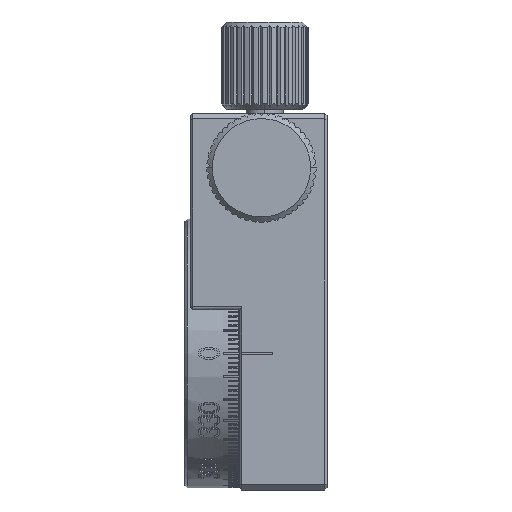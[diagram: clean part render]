
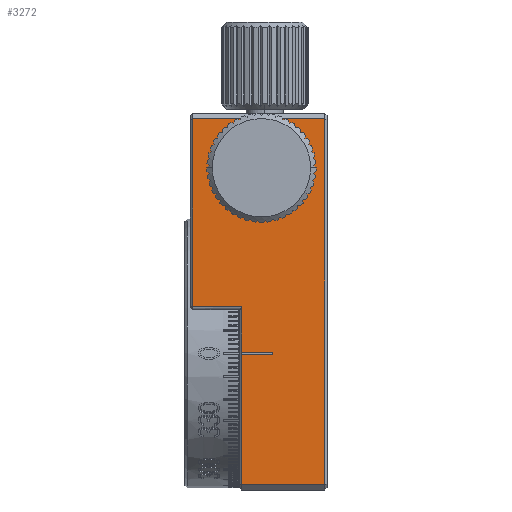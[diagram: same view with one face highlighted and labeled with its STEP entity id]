
A CAD part, left-side view. The second image highlights one B-rep face of the part: STEP entity #3272.
In plain terms, the highlighted planar face has unit normal (-1, 0, 0).
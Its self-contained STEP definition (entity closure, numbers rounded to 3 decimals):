
#755=DIRECTION('',(0.,0.,1.));
#756=VECTOR('',#755,0.2);
#757=CARTESIAN_POINT('',(-12.5,5.,-0.1));
#758=LINE('',#757,#756);
#759=DIRECTION('',(0.,1.,0.));
#760=VECTOR('',#759,4.5);
#761=CARTESIAN_POINT('',(-12.5,7.8,4.3));
#762=LINE('',#761,#760);
#763=DIRECTION('',(0.,1.,0.));
#764=VECTOR('',#763,7.6);
#765=CARTESIAN_POINT('',(-12.5,0.2,-12.));
#766=LINE('',#765,#764);
#767=DIRECTION('',(0.,-1.,0.));
#768=VECTOR('',#767,2.8);
#769=CARTESIAN_POINT('',(-12.5,7.8,-0.1));
#770=LINE('',#769,#768);
#771=CARTESIAN_POINT('',(-12.5,6.,17.));
#772=DIRECTION('',(-1.,0.,0.));
#773=DIRECTION('',(0.,0.,-1.));
#774=AXIS2_PLACEMENT_3D('',#771,#772,#773);
#776=CARTESIAN_POINT('',(-12.5,6.,17.));
#777=DIRECTION('',(-1.,0.,0.));
#778=DIRECTION('',(0.,0.,1.));
#779=AXIS2_PLACEMENT_3D('',#776,#777,#778);
#797=DIRECTION('',(0.,0.,-1.));
#798=VECTOR('',#797,11.9);
#799=CARTESIAN_POINT('',(-12.5,7.8,-0.1));
#800=LINE('',#799,#798);
#801=DIRECTION('',(0.,0.,-1.));
#802=VECTOR('',#801,4.2);
#803=CARTESIAN_POINT('',(-12.5,7.8,4.3));
#804=LINE('',#803,#802);
#805=DIRECTION('',(0.,-1.,0.));
#806=VECTOR('',#805,2.8);
#807=CARTESIAN_POINT('',(-12.5,7.8,0.1));
#808=LINE('',#807,#806);
#1431=DIRECTION('',(0.,1.,0.));
#1432=VECTOR('',#1431,12.1);
#1433=CARTESIAN_POINT('',(-12.5,0.2,21.5));
#1434=LINE('',#1433,#1432);
#1443=DIRECTION('',(0.,0.,1.));
#1444=VECTOR('',#1443,33.5);
#1445=CARTESIAN_POINT('',(-12.5,0.2,-12.));
#1446=LINE('',#1445,#1444);
#1463=DIRECTION('',(0.,0.,-1.));
#1464=VECTOR('',#1463,17.2);
#1465=CARTESIAN_POINT('',(-12.5,12.3,21.5));
#1466=LINE('',#1465,#1464);
#2149=CARTESIAN_POINT('',(-12.5,12.3,21.5));
#2150=VERTEX_POINT('',#2149);
#2217=CARTESIAN_POINT('',(-12.5,12.3,4.3));
#2218=VERTEX_POINT('',#2217);
#2219=CARTESIAN_POINT('',(-12.5,5.,-0.1));
#2220=CARTESIAN_POINT('',(-12.5,5.,0.1));
#2221=VERTEX_POINT('',#2219);
#2222=VERTEX_POINT('',#2220);
#2223=CARTESIAN_POINT('',(-12.5,7.8,0.1));
#2224=VERTEX_POINT('',#2223);
#2225=CARTESIAN_POINT('',(-12.5,7.8,4.3));
#2226=VERTEX_POINT('',#2225);
#2227=CARTESIAN_POINT('',(-12.5,0.2,21.5));
#2228=VERTEX_POINT('',#2227);
#2229=CARTESIAN_POINT('',(-12.5,0.2,-12.));
#2230=VERTEX_POINT('',#2229);
#2231=CARTESIAN_POINT('',(-12.5,7.8,-12.));
#2232=VERTEX_POINT('',#2231);
#2233=CARTESIAN_POINT('',(-12.5,7.8,-0.1));
#2234=VERTEX_POINT('',#2233);
#2235=CARTESIAN_POINT('',(-12.5,6.,14.75));
#2236=CARTESIAN_POINT('',(-12.5,6.,19.25));
#2237=VERTEX_POINT('',#2235);
#2238=VERTEX_POINT('',#2236);
#3240=CARTESIAN_POINT('',(-12.5,0.,-12.5));
#3241=DIRECTION('',(-1.,0.,0.));
#3242=DIRECTION('',(0.,0.,1.));
#3243=AXIS2_PLACEMENT_3D('',#3240,#3241,#3242);
#3244=PLANE('',#3243);
#3246=ORIENTED_EDGE('',*,*,#3245,.T.);
#3248=ORIENTED_EDGE('',*,*,#3247,.F.);
#3250=ORIENTED_EDGE('',*,*,#3249,.F.);
#3252=ORIENTED_EDGE('',*,*,#3251,.T.);
#3254=ORIENTED_EDGE('',*,*,#3253,.F.);
#3256=ORIENTED_EDGE('',*,*,#3255,.F.);
#3258=ORIENTED_EDGE('',*,*,#3257,.F.);
#3260=ORIENTED_EDGE('',*,*,#3259,.T.);
#3262=ORIENTED_EDGE('',*,*,#3261,.F.);
#3264=ORIENTED_EDGE('',*,*,#3263,.T.);
#3265=EDGE_LOOP('',(#3246,#3248,#3250,#3252,#3254,#3256,#3258,#3260,#3262,
#3264));
#3266=FACE_OUTER_BOUND('',#3265,.F.);
#3267=ORIENTED_EDGE('',*,*,#3230,.T.);
#3269=ORIENTED_EDGE('',*,*,#3268,.T.);
#3270=EDGE_LOOP('',(#3267,#3269));
#3271=FACE_BOUND('',#3270,.F.);
#3272=ADVANCED_FACE('',(#3266,#3271),#3244,.T.);
#775=CIRCLE('',#774,2.25);
#780=CIRCLE('',#779,2.25);
#3230=EDGE_CURVE('',#2237,#2238,#775,.T.);
#3245=EDGE_CURVE('',#2221,#2222,#758,.T.);
#3247=EDGE_CURVE('',#2224,#2222,#808,.T.);
#3249=EDGE_CURVE('',#2226,#2224,#804,.T.);
#3251=EDGE_CURVE('',#2226,#2218,#762,.T.);
#3253=EDGE_CURVE('',#2150,#2218,#1466,.T.);
#3255=EDGE_CURVE('',#2228,#2150,#1434,.T.);
#3257=EDGE_CURVE('',#2230,#2228,#1446,.T.);
#3259=EDGE_CURVE('',#2230,#2232,#766,.T.);
#3261=EDGE_CURVE('',#2234,#2232,#800,.T.);
#3263=EDGE_CURVE('',#2234,#2221,#770,.T.);
#3268=EDGE_CURVE('',#2238,#2237,#780,.T.);
